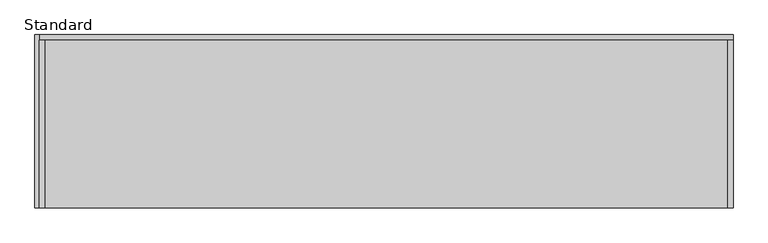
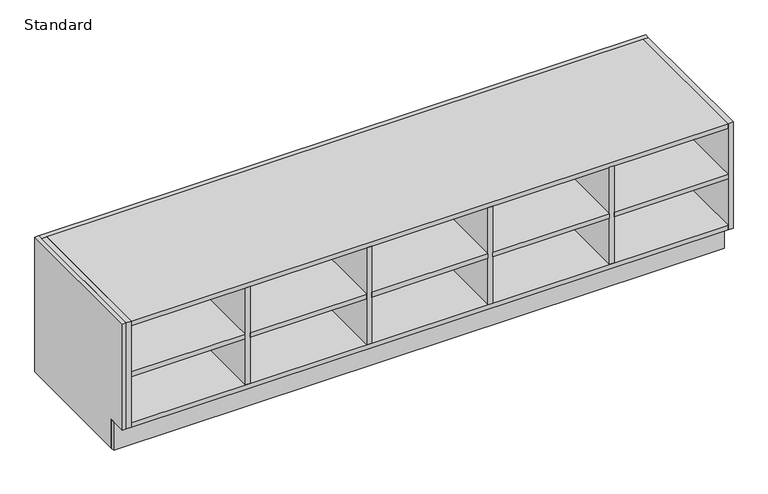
"""IFC4 building model written with IfcOpenShell, lengths in millimetres: furniture geometry, X_Locker-Duracube-Shoe Box : Standard."""

from ifc_helpers import new_model, si_unit, frame, origin, origin_with_axes, place, context, project, spatial, polyline, outline, extrude, source, transform, mapped, element, save


def standard_83458254(model_context):
    return source(origin(), model_context, "Body", "SweptSolid", [
        extrude(outline(polyline([(1035.2003264, -308.5), (1035.2003264, -792.5), (659.2003264, -792.5), (659.2003264, -308.5), (1035.2003264, -308.5)])), frame((0.0, 0.0, 277.0), z_axis=(0.0, 0.0, 1.0), x_axis=(1.0, 0.0, 0.0)), (0.0, 0.0, 1.0), 16.0),
        extrude(outline(polyline([(643.2003264, -308.5), (643.2003264, -792.5), (259.2003264, -792.5), (259.2003264, -308.5), (643.2003264, -308.5)])), frame((0.0, 0.0, 277.0), z_axis=(0.0, 0.0, 1.0), x_axis=(1.0, 0.0, 0.0)), (0.0, 0.0, 1.0), 16.0),
        extrude(outline(polyline([(243.2003264, -308.5), (243.2003264, -792.5), (-140.7996736, -792.5), (-140.7996736, -308.5), (243.2003264, -308.5)])), frame((0.0, 0.0, 277.0), z_axis=(0.0, 0.0, 1.0), x_axis=(1.0, 0.0, 0.0)), (0.0, 0.0, 1.0), 16.0),
        extrude(outline(polyline([(-156.7996736, -308.5), (-156.7996736, -792.5), (-540.7996736, -792.5), (-540.7996736, -308.5), (-156.7996736, -308.5)])), frame((0.0, 0.0, 277.0), z_axis=(0.0, 0.0, 1.0), x_axis=(1.0, 0.0, 0.0)), (0.0, 0.0, 1.0), 16.0),
        extrude(outline(polyline([(659.2003264, -308.5), (659.2003264, -792.5), (643.2003264, -792.5), (643.2003264, -308.5), (659.2003264, -308.5)])), frame((0.0, 0.0, 116.0), z_axis=(0.0, 0.0, 1.0), x_axis=(1.0, 0.0, 0.0)), (0.0, 0.0, 1.0), 338.0),
        extrude(outline(polyline([(259.2003264, -308.5), (259.2003264, -792.5), (243.2003264, -792.5), (243.2003264, -308.5), (259.2003264, -308.5)])), frame((0.0, 0.0, 116.0), z_axis=(0.0, 0.0, 1.0), x_axis=(1.0, 0.0, 0.0)), (0.0, 0.0, 1.0), 338.0),
        extrude(outline(polyline([(-140.7996736, -308.5), (-140.7996736, -792.5), (-156.7996736, -792.5), (-156.7996736, -308.5), (-140.7996736, -308.5)])), frame((0.0, 0.0, 116.0), z_axis=(0.0, 0.0, 1.0), x_axis=(1.0, 0.0, 0.0)), (0.0, 0.0, 1.0), 338.0),
        extrude(outline(polyline([(-540.7996736, -308.5), (-540.7996736, -792.5), (-556.7996736, -792.5), (-556.7996736, -308.5), (-540.7996736, -308.5)])), frame((0.0, 0.0, 116.0), z_axis=(0.0, 0.0, 1.0), x_axis=(1.0, 0.0, 0.0)), (0.0, 0.0, 1.0), 338.0),
        extrude(outline(polyline([(1051.2003264, -308.5), (1051.2003264, -792.5), (1035.2003264, -792.5), (1035.2003264, -308.5), (1051.2003264, -308.5)])), frame((0.0, 0.0, 100.0), z_axis=(0.0, 0.0, 1.0), x_axis=(1.0, 0.0, 0.0)), (0.0, 0.0, 1.0), 370.0),
        extrude(outline(polyline([(-932.7996736, -308.5), (-932.7996736, -792.5), (-948.7996736, -792.5), (-948.7996736, -308.5), (-932.7996736, -308.5)])), frame((0.0, 0.0, 100.0), z_axis=(0.0, 0.0, 1.0), x_axis=(1.0, 0.0, 0.0)), (0.0, 0.0, 1.0), 370.0),
        extrude(outline(polyline([(-556.7996736, -308.5), (-556.7996736, -792.5), (-932.7996736, -792.5), (-932.7996736, -308.5), (-556.7996736, -308.5)])), frame((0.0, 0.0, 277.0), z_axis=(0.0, 0.0, 1.0), x_axis=(1.0, 0.0, 0.0)), (0.0, 0.0, 1.0), 16.0),
        extrude(outline(polyline([(1035.2003264, -308.5), (1035.2003264, -792.5), (-932.7996736, -792.5), (-932.7996736, -308.5), (1035.2003264, -308.5)])), frame((0.0, 0.0, 454.0), z_axis=(0.0, 0.0, 1.0), x_axis=(1.0, 0.0, 0.0)), (0.0, 0.0, 1.0), 16.0),
        extrude(outline(polyline([(1035.2003264, -308.5), (1035.2003264, -792.5), (-932.7996736, -792.5), (-932.7996736, -308.5), (1035.2003264, -308.5)])), frame((0.0, 0.0, 100.0), z_axis=(0.0, 0.0, 1.0), x_axis=(1.0, 0.0, 0.0)), (0.0, 0.0, 1.0), 16.0),
        extrude(outline(polyline([(-792.5, 470.0), (-292.5, 470.0), (-292.5, 0.0), (-729.5, 0.0), (-729.5, 100.0), (-792.5, 100.0), (-792.5, 470.0)])), frame((-961.7996736, 0.0, 0.0), z_axis=(1.0, 0.0, 0.0), x_axis=(0.0, 1.0, 0.0)), (0.0, 0.0, 1.0), 13.0),
        extrude(outline(polyline([(1051.2003264, -292.5), (1051.2003264, -308.5), (-948.7996736, -308.5), (-948.7996736, -292.5), (1051.2003264, -292.5)])), origin_with_axes(), (0.0, 0.0, 1.0), 470.0),
        extrude(outline(polyline([(1051.2003264, -713.5), (1051.2003264, -729.5), (-948.7996736, -729.5), (-948.7996736, -713.5), (1051.2003264, -713.5)])), origin_with_axes(), (0.0, 0.0, 1.0), 100.0),
        extrude(outline(polyline([(1051.2003264, -729.5), (1051.2003264, -742.5), (-961.7996736, -742.5), (-961.7996736, -729.5), (1051.2003264, -729.5)])), origin_with_axes(), (0.0, 0.0, 1.0), 100.0),
    ])


if __name__ == "__main__":
    model = new_model("IFC4")
    model_context = context("Model", 3, world=origin())
    ifc_project = project(units=[si_unit("LENGTHUNIT", "METRE", prefix="MILLI")], contexts=[model_context])
    site = spatial("IfcSite", under=ifc_project)
    building = spatial("IfcBuilding", under=site)
    placement = place(None, origin())
    standard_shape = standard_83458254(model_context)
    element("IfcFurniture", 1, ObjectType="X_Locker-Duracube-Shoe Box : Standard", at=placement, inside=building, context=model_context, shape_type="MappedRepresentation", body=[
        mapped(standard_shape, transform((0.0, 0.0, 0.0), x_axis=(1.0, 0.0, 0.0), y_axis=(0.0, 1.0, 0.0), z_axis=(0.0, 0.0, 1.0))),
    ])
    save(model, "model.ifc")
